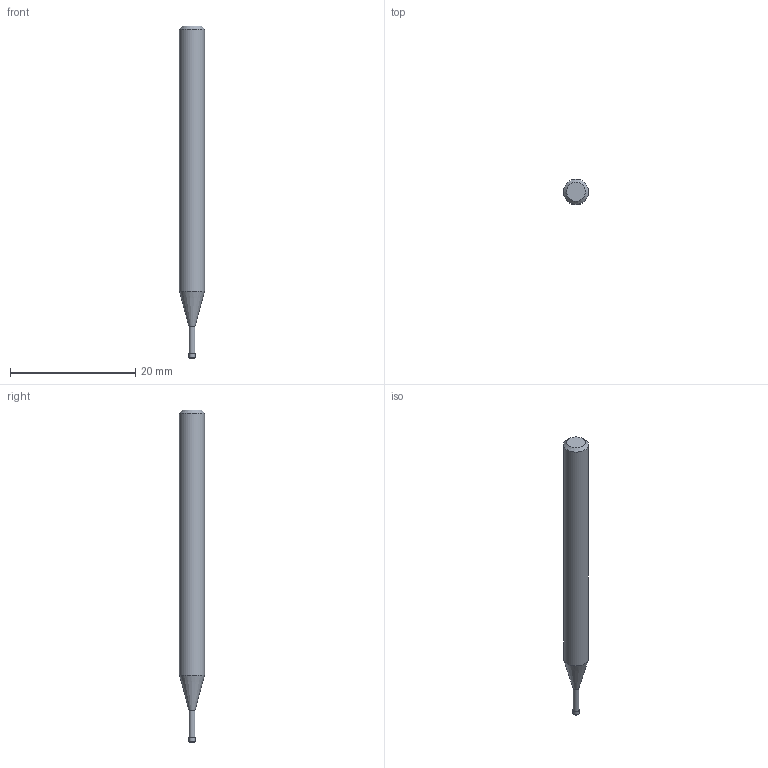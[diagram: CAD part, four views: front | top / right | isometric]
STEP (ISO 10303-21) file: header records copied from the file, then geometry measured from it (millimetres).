
FILE_DESCRIPTION((''),'2;1');
FILE_NAME('C:\Users\nsx150\AppData\Local\Temp\Mastercam 2021\KTITUSYVIC\TEMP.step','2025-03-31T18:55:17',(''),(''),'STEP Write','Mastercam 2021 ... CNC Software, Inc.','');
FILE_SCHEMA(('AUTOMOTIVE_DESIGN'));
Length unit declared in the file: millimetre
Products named in the file (1): None
Bounding box: 4 x 4 x 53 mm (x, y, z)
Volume: 564.7 mm3; surface area: 603.3 mm2
Topology: 2 solids, 2 shells, 10 faces, 14 edges, 8 vertices
Faces by surface type: plane 4, cylinder 3, cone 2, torus 1
Full cylindrical faces by diameter (mm): 0.95 x1, 1 x1, 4 x1
Entity records: 232 total; most frequent: DIRECTION 40, CARTESIAN_POINT 28, AXIS2_PLACEMENT_3D 20, ORIENTED_EDGE 16, EDGE_LOOP 16, STYLED_ITEM 13, ADVANCED_FACE 10, FACE_BOUND 10
